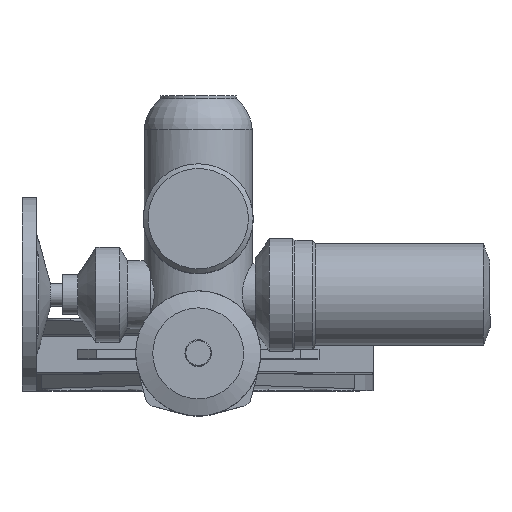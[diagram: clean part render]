
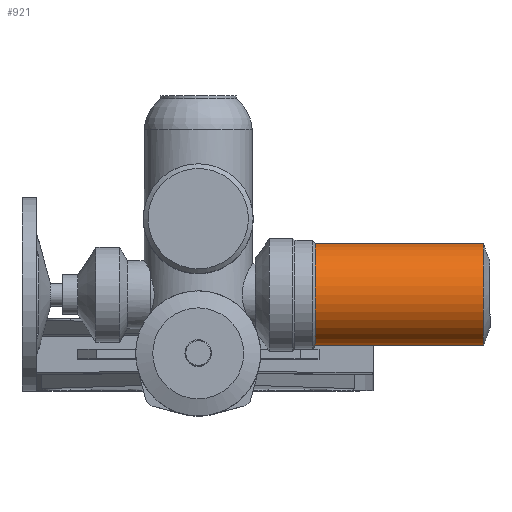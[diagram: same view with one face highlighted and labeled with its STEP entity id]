
A CAD part, top view. The second image highlights one B-rep face of the part: STEP entity #921.
In plain terms, the highlighted cylindrical face has radius 54 mm (diameter 108 mm), a full revolution.
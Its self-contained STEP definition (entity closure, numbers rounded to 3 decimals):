
#921=ADVANCED_FACE('',(#3311,#3313),#3315,.T.);
#3311=FACE_OUTER_BOUND('',#3312,.T.);
#3312=EDGE_LOOP('',(#5087));
#3313=FACE_OUTER_BOUND('',#3314,.T.);
#3314=EDGE_LOOP('',(#5088));
#3315=CYLINDRICAL_SURFACE('',#3316,54.);
#3316=AXIS2_PLACEMENT_3D('',#3317,#3318,#3319);
#3317=CARTESIAN_POINT('',(301.085,62.,819.));
#3318=DIRECTION('',(-1.,0.,0.));
#3319=DIRECTION('',(0.,0.,1.));
#5087=ORIENTED_EDGE('',*,*,#6280,.T.);
#5088=ORIENTED_EDGE('',*,*,#6191,.F.);
#6191=EDGE_CURVE('',#7012,#7012,#7013,.T.);
#6280=EDGE_CURVE('',#7166,#7166,#7167,.T.);
#7012=VERTEX_POINT('',#9689);
#7013=CIRCLE('',#9690,54.);
#7166=VERTEX_POINT('',#10039);
#7167=CIRCLE('',#10040,54.);
#9689=CARTESIAN_POINT('',(123.505,62.,873.));
#9690=AXIS2_PLACEMENT_3D('',#9691,#9692,#9693);
#9691=CARTESIAN_POINT('',(123.505,62.,819.));
#9692=DIRECTION('',(-1.,0.,0.));
#9693=DIRECTION('',(0.,0.,1.));
#10039=CARTESIAN_POINT('',(301.085,62.,873.));
#10040=AXIS2_PLACEMENT_3D('',#10041,#10042,#10043);
#10041=CARTESIAN_POINT('',(301.085,62.,819.));
#10042=DIRECTION('',(-1.,0.,0.));
#10043=DIRECTION('',(0.,0.,1.));
